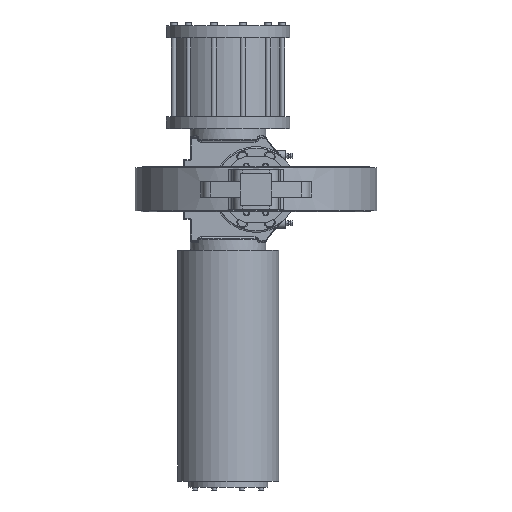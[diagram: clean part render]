
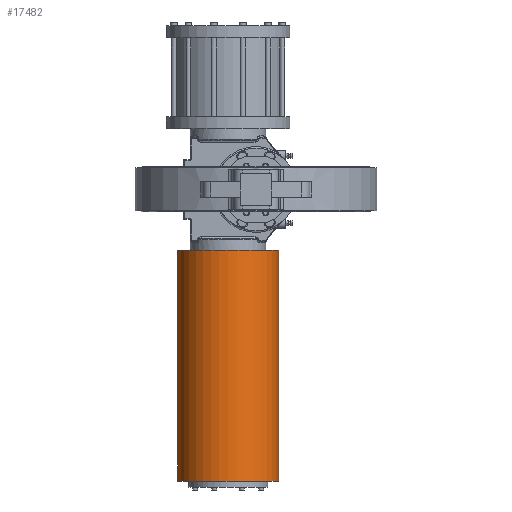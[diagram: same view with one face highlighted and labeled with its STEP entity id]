
A CAD part, front view. The second image highlights one B-rep face of the part: STEP entity #17482.
In plain terms, the highlighted cylindrical face has radius 254 mm (diameter 508 mm), a partial arc.
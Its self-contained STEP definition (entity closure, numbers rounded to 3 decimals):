
#223 = DIRECTION ( 'NONE',  ( 0., 0., -1. ) ) ;
#1024 = CARTESIAN_POINT ( 'NONE',  ( 0., 0., -254. ) ) ;
#3271 = EDGE_CURVE ( 'NONE', #24217, #5325, #14788, .T. ) ;
#3716 = DIRECTION ( 'NONE',  ( 1., 0., 0. ) ) ;
#5086 = VERTEX_POINT ( 'NONE', #22805 ) ;
#5104 = DIRECTION ( 'NONE',  ( 1., 0., 0. ) ) ;
#5325 = VERTEX_POINT ( 'NONE', #20631 ) ;
#6538 = DIRECTION ( 'NONE',  ( 0., 0., -1. ) ) ;
#6724 = AXIS2_PLACEMENT_3D ( 'NONE', #20814, #17627, #13258 ) ;
#7265 = CARTESIAN_POINT ( 'NONE',  ( 1466., 0., -254. ) ) ;
#8620 = VERTEX_POINT ( 'NONE', #7265 ) ;
#9911 = CARTESIAN_POINT ( 'NONE',  ( 0., 0., 254. ) ) ;
#11281 = EDGE_CURVE ( 'NONE', #24217, #5086, #32922, .T. ) ;
#13258 = DIRECTION ( 'NONE',  ( 0., 0., -1. ) ) ;
#14788 = CIRCLE ( 'NONE', #6724, 254. ) ;
#15498 = FACE_OUTER_BOUND ( 'NONE', #18504, .T. ) ;
#17013 = ORIENTED_EDGE ( 'NONE', *, *, #31931, .T. ) ;
#17032 = VECTOR ( 'NONE', #3716, 1000. ) ;
#17482 = ADVANCED_FACE ( 'NONE', ( #15498 ), #25732, .T. ) ;
#17627 = DIRECTION ( 'NONE',  ( 1., 0., 0. ) ) ;
#17842 = CARTESIAN_POINT ( 'NONE',  ( 0., 0., 0. ) ) ;
#18354 = ORIENTED_EDGE ( 'NONE', *, *, #3271, .T. ) ;
#18504 = EDGE_LOOP ( 'NONE', ( #21232, #18354, #17013, #22353 ) ) ;
#19262 = DIRECTION ( 'NONE',  ( 1., 0., 0. ) ) ;
#20135 = DIRECTION ( 'NONE',  ( 1., 0., 0. ) ) ;
#20243 = CARTESIAN_POINT ( 'NONE',  ( 306., 0., 254. ) ) ;
#20631 = CARTESIAN_POINT ( 'NONE',  ( 306., 0., -254. ) ) ;
#20655 = EDGE_CURVE ( 'NONE', #5086, #8620, #27783, .T. ) ;
#20802 = AXIS2_PLACEMENT_3D ( 'NONE', #32048, #19262, #6538 ) ;
#20814 = CARTESIAN_POINT ( 'NONE',  ( 306., 0., 0. ) ) ;
#21232 = ORIENTED_EDGE ( 'NONE', *, *, #11281, .F. ) ;
#21496 = LINE ( 'NONE', #1024, #17032 ) ;
#22353 = ORIENTED_EDGE ( 'NONE', *, *, #20655, .F. ) ;
#22805 = CARTESIAN_POINT ( 'NONE',  ( 1466., 0., 254. ) ) ;
#24217 = VERTEX_POINT ( 'NONE', #20243 ) ;
#25732 = CYLINDRICAL_SURFACE ( 'NONE', #30918, 254. ) ;
#26892 = VECTOR ( 'NONE', #20135, 1000. ) ;
#27783 = CIRCLE ( 'NONE', #20802, 254. ) ;
#30918 = AXIS2_PLACEMENT_3D ( 'NONE', #17842, #5104, #223 ) ;
#31931 = EDGE_CURVE ( 'NONE', #5325, #8620, #21496, .T. ) ;
#32048 = CARTESIAN_POINT ( 'NONE',  ( 1466., 0., 0. ) ) ;
#32922 = LINE ( 'NONE', #9911, #26892 ) ;
